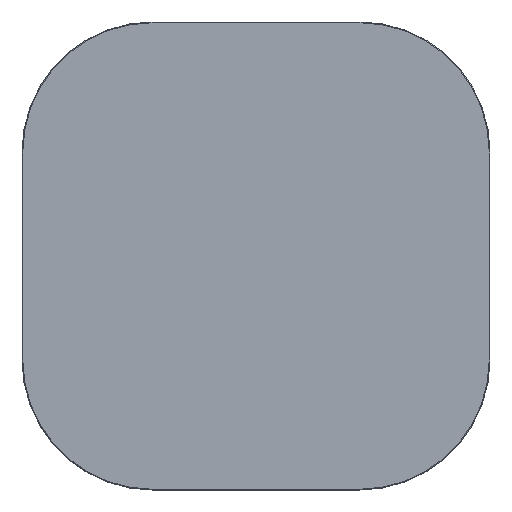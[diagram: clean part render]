
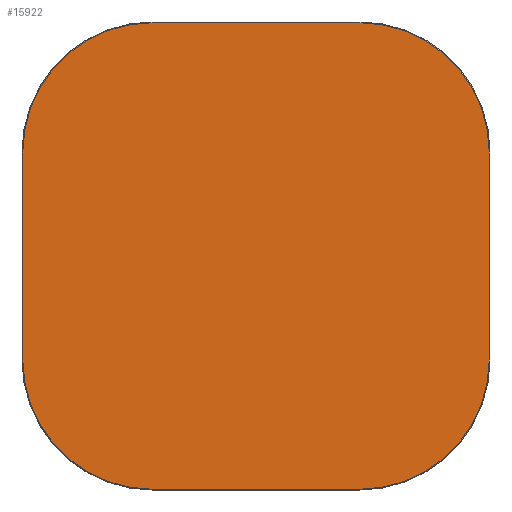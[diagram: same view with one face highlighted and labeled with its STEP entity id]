
A CAD part, top view. The second image highlights one B-rep face of the part: STEP entity #15922.
In plain terms, the highlighted planar face has unit normal (0, 0, 1).
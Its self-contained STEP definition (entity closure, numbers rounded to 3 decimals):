
#15847=CARTESIAN_POINT('',(0.,0.,20.));
#15848=DIRECTION('',(1.,0.,0.));
#15849=DIRECTION('',(0.,0.,1.));
#15850=AXIS2_PLACEMENT_3D('',#15847,#15849,#15848);
#15851=PLANE('',#15850);
#15852=CARTESIAN_POINT('',(-200.,-448.5,20.));
#15853=VERTEX_POINT('',#15852);
#15854=CARTESIAN_POINT('',(200.,-448.5,20.));
#15855=VERTEX_POINT('',#15854);
#15856=CARTESIAN_POINT('',(-200.,-448.5,20.));
#15857=DIRECTION('',(1.,0.,0.));
#15858=VECTOR('',#15857,400.);
#15859=LINE('',#15856,#15858);
#15860=EDGE_CURVE('',#15853,#15855,#15859,.T.);
#15861=ORIENTED_EDGE('E105',*,*,#15860,.T.);
#15862=CARTESIAN_POINT('',(448.5,-200.,20.));
#15863=VERTEX_POINT('',#15862);
#15864=CARTESIAN_POINT('',(200.,-200.,20.));
#15865=DIRECTION('',(0.,-1.,0.));
#15866=DIRECTION('',(0.,0.,1.));
#15867=AXIS2_PLACEMENT_3D('',#15864,#15866,#15865);
#15868=CIRCLE('',#15867,248.5);
#15869=EDGE_CURVE('',#15855,#15863,#15868,.T.);
#15870=ORIENTED_EDGE('E107',*,*,#15869,.T.);
#15871=CARTESIAN_POINT('',(448.5,200.,20.));
#15872=VERTEX_POINT('',#15871);
#15873=CARTESIAN_POINT('',(448.5,-200.,20.));
#15874=DIRECTION('',(0.,1.,0.));
#15875=VECTOR('',#15874,400.);
#15876=LINE('',#15873,#15875);
#15877=EDGE_CURVE('',#15863,#15872,#15876,.T.);
#15878=ORIENTED_EDGE('E109',*,*,#15877,.T.);
#15879=CARTESIAN_POINT('',(200.,448.5,20.));
#15880=VERTEX_POINT('',#15879);
#15881=CARTESIAN_POINT('',(200.,200.,20.));
#15882=DIRECTION('',(1.,0.,0.));
#15883=DIRECTION('',(0.,0.,1.));
#15884=AXIS2_PLACEMENT_3D('',#15881,#15883,#15882);
#15885=CIRCLE('',#15884,248.5);
#15886=EDGE_CURVE('',#15872,#15880,#15885,.T.);
#15887=ORIENTED_EDGE('E111',*,*,#15886,.T.);
#15888=CARTESIAN_POINT('',(-200.,448.5,20.));
#15889=VERTEX_POINT('',#15888);
#15890=CARTESIAN_POINT('',(200.,448.5,20.));
#15891=DIRECTION('',(-1.,0.,0.));
#15892=VECTOR('',#15891,400.);
#15893=LINE('',#15890,#15892);
#15894=EDGE_CURVE('',#15880,#15889,#15893,.T.);
#15895=ORIENTED_EDGE('E113',*,*,#15894,.T.);
#15896=CARTESIAN_POINT('',(-448.5,200.,20.));
#15897=VERTEX_POINT('',#15896);
#15898=CARTESIAN_POINT('',(-200.,200.,20.));
#15899=DIRECTION('',(0.,1.,0.));
#15900=DIRECTION('',(0.,0.,1.));
#15901=AXIS2_PLACEMENT_3D('',#15898,#15900,#15899);
#15902=CIRCLE('',#15901,248.5);
#15903=EDGE_CURVE('',#15889,#15897,#15902,.T.);
#15904=ORIENTED_EDGE('E115',*,*,#15903,.T.);
#15905=CARTESIAN_POINT('',(-448.5,-200.,20.));
#15906=VERTEX_POINT('',#15905);
#15907=CARTESIAN_POINT('',(-448.5,200.,20.));
#15908=DIRECTION('',(0.,-1.,0.));
#15909=VECTOR('',#15908,400.);
#15910=LINE('',#15907,#15909);
#15911=EDGE_CURVE('',#15897,#15906,#15910,.T.);
#15912=ORIENTED_EDGE('E117',*,*,#15911,.T.);
#15913=CARTESIAN_POINT('',(-200.,-200.,20.));
#15914=DIRECTION('',(-1.,0.,0.));
#15915=DIRECTION('',(-0.,0.,1.));
#15916=AXIS2_PLACEMENT_3D('',#15913,#15915,#15914);
#15917=CIRCLE('',#15916,248.5);
#15918=EDGE_CURVE('',#15906,#15853,#15917,.T.);
#15919=ORIENTED_EDGE('E119',*,*,#15918,.T.);
#15920=EDGE_LOOP('',(#15861,#15870,#15878,#15887,#15895,#15904,#15912,#15919));
#15921=FACE_OUTER_BOUND('',#15920,.T.);
#15922=ADVANCED_FACE('F2',(#15921),#15851,.T.);
